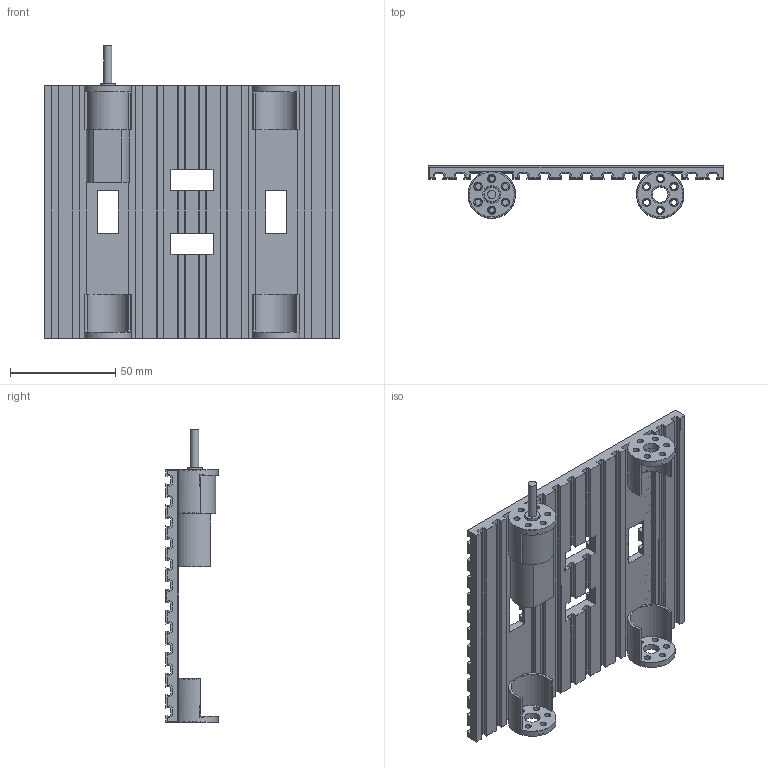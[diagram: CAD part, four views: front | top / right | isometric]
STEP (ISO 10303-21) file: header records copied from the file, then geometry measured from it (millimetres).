
FILE_DESCRIPTION(/* description */ (''),/* implementation_level */ '2;1');
FILE_NAME(/* name */ 'C:/Users/priba/Downloads/Chassis20mm120.step',/* time_stamp */ '2020-09-13T09:14:56+02:00',/* author */ (''),/* organization */ (''),/* preprocessor_version */ 'ST-DEVELOPER v18.1',/* originating_system */ 'Autodesk Translation Framework v9.3.0.1241',/* authorisation */ '');
FILE_SCHEMA (('AUTOMOTIVE_DESIGN { 1 0 10303 214 3 1 1 }'));
Length unit declared in the file: millimetre
Products named in the file (2): Chassis20mm120; Motor20mm
Assembly tree (1 placements, depth 2):
  Chassis20mm120
    Motor20mm
Bounding box: 140 x 24.94 x 139 mm (x, y, z)
Volume: 46391.3 mm3; surface area: 115117 mm2
Topology: 2 solids, 6 shells, 612 faces, 1943 edges, 1294 vertices
Faces by surface type: plane 533, cylinder 79
Full cylindrical faces by diameter (mm): 2.5 x2, 2.9 x24, 4 x25, 7 x1, 7.4 x4, 8.5 x4, 20 x1, 21.403 x4
Entity records: 21575 total; most frequent: ORIENTED_EDGE 3886, CARTESIAN_POINT 3852, DIRECTION 3351, EDGE_CURVE 1943, LINE 1765, VECTOR 1765, VERTEX_POINT 1294, AXIS2_PLACEMENT_3D 793
